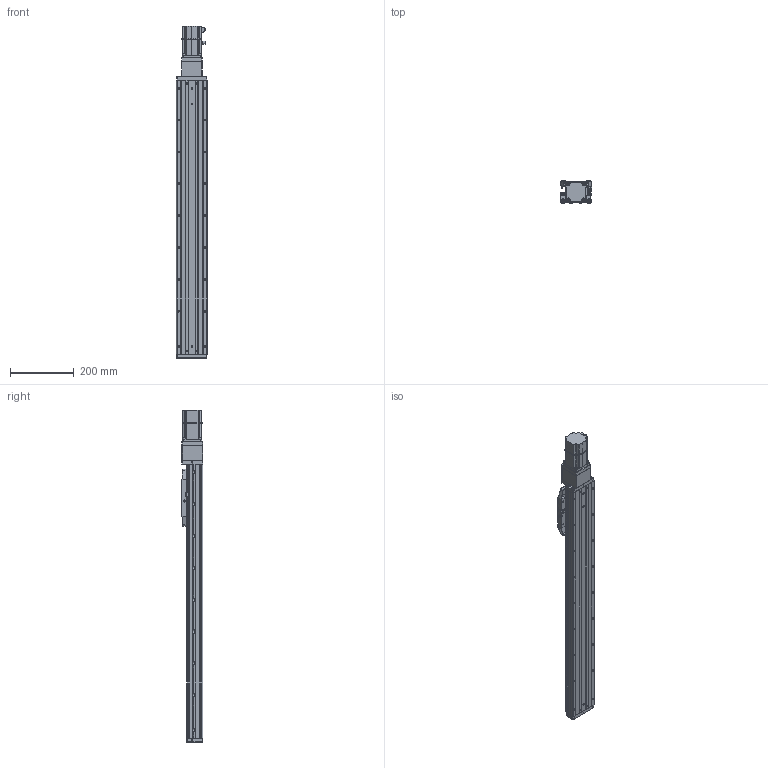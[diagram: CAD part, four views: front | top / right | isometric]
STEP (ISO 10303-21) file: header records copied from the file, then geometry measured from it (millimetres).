
FILE_DESCRIPTION (( 'STEP AP203' ), '1' );
FILE_NAME ('CTHA100-650-BC-M20-C4L.step', '2022-07-06T08:53:22', ( '微软用户' ), ( '微软中国' ), 'SwSTEP 2.0', 'SolidWorks 2020', '' );
FILE_SCHEMA (( 'CONFIG_CONTROL_DESIGN' ));
Length unit declared in the file: millimetre
Products named in the file (20): CTHA86-013; CTHA100-650-BC-M20-C4L; CTHA60-021; CTHA86-027; KTHA100-001_860; GBT77-2000 M3×3; CTHA86-006-1_CTHA86-006-2; KTHA100-004; GBT 70.1-M3℅6; GBT 70.3-M3℅6; KTHA100-005; GBT70.1 M5℅16; CTHA100-002; GB¨uT 70.2-M3¡Á5_M3¡Á6; CTHA60-016; CTHA100-031; EE_SX911P_R; _X2_4E0983F1_X0_200W_1; CTHA86-030; CTHA60-017
Assembly tree (63 placements, depth 2):
  CTHA100-650-BC-M20-C4L
    KTHA100-001_860
    KTHA100-004
    KTHA100-005
    GB¨uT 70.2-M3¡Á5_M3¡Á6  x10
    EE_SX911P_R  x3
    CTHA60-017  x3
    CTHA60-021  x2
    GBT77-2000 M3×3  x6
    GBT 70.1-M3℅6  x6
    GBT70.1 M5℅16  x14
    CTHA60-016  x2
    _X2_4E0983F1_X0_200W_1
    CTHA86-013
    CTHA86-027
    CTHA86-006-1_CTHA86-006-2
    GBT 70.3-M3℅6  x6
    CTHA100-002
    CTHA100-031
    CTHA86-030  x2
Bounding box: 98.82 x 68 x 1042.5 mm (x, y, z)
Volume: 3747345 mm3; surface area: 647884.8 mm2
Topology: 65 solids, 65 shells, 2659 faces, 6382 edges, 3940 vertices
Faces by surface type: plane 1387, cylinder 691, cone 376, torus 112, bspline 69, sphere 24
Entity records: 46288 total; most frequent: CARTESIAN_POINT 8674, DIRECTION 7261, ORIENTED_EDGE 7036, EDGE_CURVE 3518, AXIS2_PLACEMENT_3D 2463, LINE 2335, VECTOR 2335, VERTEX_POINT 2218
